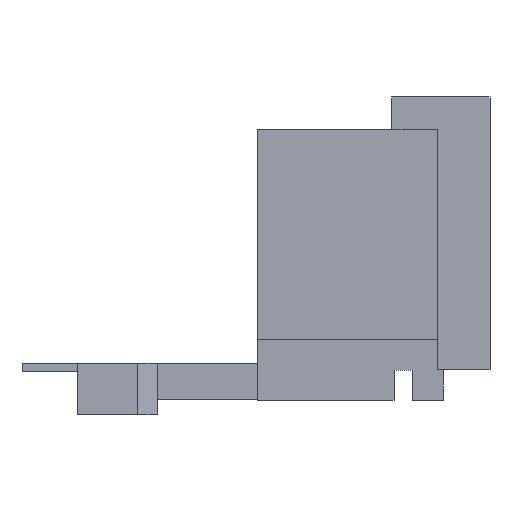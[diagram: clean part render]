
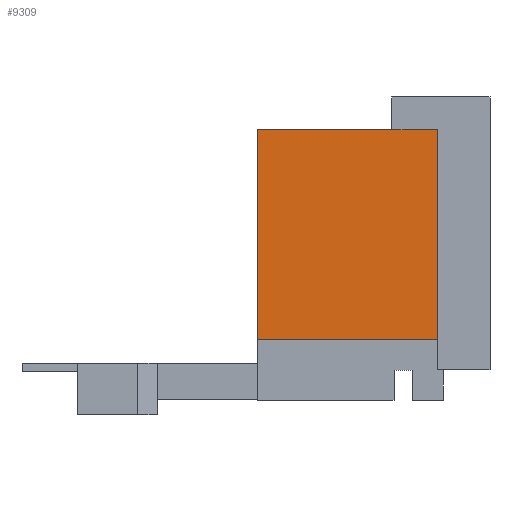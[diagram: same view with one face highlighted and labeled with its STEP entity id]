
A CAD part, left-side view. The second image highlights one B-rep face of the part: STEP entity #9309.
In plain terms, the highlighted planar face has unit normal (-1, 0, 0).
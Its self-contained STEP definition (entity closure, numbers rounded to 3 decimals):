
#5506 = PLANE('',#5507);
#5507 = AXIS2_PLACEMENT_3D('',#5508,#5509,#5510);
#5508 = CARTESIAN_POINT('',(28.062,-0.15,26.15));
#5509 = DIRECTION('',(0.,1.,0.));
#5510 = DIRECTION('',(1.,0.,0.));
#9136 = EDGE_CURVE('',#9137,#9139,#9141,.T.);
#9137 = VERTEX_POINT('',#9138);
#9138 = CARTESIAN_POINT('',(28.062,-0.15,26.15));
#9139 = VERTEX_POINT('',#9140);
#9140 = CARTESIAN_POINT('',(28.062,-0.15,6.96));
#9141 = SURFACE_CURVE('',#9142,(#9146,#9153),.PCURVE_S1.);
#9142 = LINE('',#9143,#9144);
#9143 = CARTESIAN_POINT('',(28.062,-0.15,26.15));
#9144 = VECTOR('',#9145,1.);
#9145 = DIRECTION('',(0.,0.,-1.));
#9146 = PCURVE('',#5506,#9147);
#9147 = DEFINITIONAL_REPRESENTATION('',(#9148),#9152);
#9148 = LINE('',#9149,#9150);
#9149 = CARTESIAN_POINT('',(0.,0.));
#9150 = VECTOR('',#9151,1.);
#9151 = DIRECTION('',(0.,1.));
#9152 = ( GEOMETRIC_REPRESENTATION_CONTEXT(2) 
PARAMETRIC_REPRESENTATION_CONTEXT() REPRESENTATION_CONTEXT('2D SPACE',''
  ) );
#9153 = PCURVE('',#9154,#9159);
#9154 = PLANE('',#9155);
#9155 = AXIS2_PLACEMENT_3D('',#9156,#9157,#9158);
#9156 = CARTESIAN_POINT('',(28.062,-17.15,26.15));
#9157 = DIRECTION('',(1.,0.,0.));
#9158 = DIRECTION('',(0.,1.,0.));
#9159 = DEFINITIONAL_REPRESENTATION('',(#9160),#9164);
#9160 = LINE('',#9161,#9162);
#9161 = CARTESIAN_POINT('',(17.,0.));
#9162 = VECTOR('',#9163,1.);
#9163 = DIRECTION('',(0.,-1.));
#9164 = ( GEOMETRIC_REPRESENTATION_CONTEXT(2) 
PARAMETRIC_REPRESENTATION_CONTEXT() REPRESENTATION_CONTEXT('2D SPACE',''
  ) );
#9182 = PLANE('',#9183);
#9183 = AXIS2_PLACEMENT_3D('',#9184,#9185,#9186);
#9184 = CARTESIAN_POINT('',(28.062,-17.15,26.15));
#9185 = DIRECTION('',(0.,0.,-1.));
#9186 = DIRECTION('',(0.,1.,0.));
#9292 = PLANE('',#9293);
#9293 = AXIS2_PLACEMENT_3D('',#9294,#9295,#9296);
#9294 = CARTESIAN_POINT('',(27.962,-17.25,6.96));
#9295 = DIRECTION('',(0.,0.,-1.));
#9296 = DIRECTION('',(0.,1.,0.));
#9309 = ADVANCED_FACE('',(#9310),#9154,.F.);
#9310 = FACE_BOUND('',#9311,.F.);
#9311 = EDGE_LOOP('',(#9312,#9342,#9363,#9364,#9387));
#9312 = ORIENTED_EDGE('',*,*,#9313,.F.);
#9313 = EDGE_CURVE('',#9314,#9316,#9318,.T.);
#9314 = VERTEX_POINT('',#9315);
#9315 = CARTESIAN_POINT('',(28.062,-16.65,6.96));
#9316 = VERTEX_POINT('',#9317);
#9317 = CARTESIAN_POINT('',(28.062,-16.65,26.15));
#9318 = SURFACE_CURVE('',#9319,(#9323,#9330),.PCURVE_S1.);
#9319 = LINE('',#9320,#9321);
#9320 = CARTESIAN_POINT('',(28.062,-16.65,27.65));
#9321 = VECTOR('',#9322,1.);
#9322 = DIRECTION('',(0.,0.,1.));
#9323 = PCURVE('',#9154,#9324);
#9324 = DEFINITIONAL_REPRESENTATION('',(#9325),#9329);
#9325 = LINE('',#9326,#9327);
#9326 = CARTESIAN_POINT('',(0.5,1.5));
#9327 = VECTOR('',#9328,1.);
#9328 = DIRECTION('',(0.,1.));
#9329 = ( GEOMETRIC_REPRESENTATION_CONTEXT(2) 
PARAMETRIC_REPRESENTATION_CONTEXT() REPRESENTATION_CONTEXT('2D SPACE',''
  ) );
#9330 = PCURVE('',#9331,#9336);
#9331 = PLANE('',#9332);
#9332 = AXIS2_PLACEMENT_3D('',#9333,#9334,#9335);
#9333 = CARTESIAN_POINT('',(16.062,-16.65,29.15));
#9334 = DIRECTION('',(0.,1.,0.));
#9335 = DIRECTION('',(1.,0.,0.));
#9336 = DEFINITIONAL_REPRESENTATION('',(#9337),#9341);
#9337 = LINE('',#9338,#9339);
#9338 = CARTESIAN_POINT('',(12.,1.5));
#9339 = VECTOR('',#9340,1.);
#9340 = DIRECTION('',(0.,-1.));
#9341 = ( GEOMETRIC_REPRESENTATION_CONTEXT(2) 
PARAMETRIC_REPRESENTATION_CONTEXT() REPRESENTATION_CONTEXT('2D SPACE',''
  ) );
#9342 = ORIENTED_EDGE('',*,*,#9343,.T.);
#9343 = EDGE_CURVE('',#9314,#9139,#9344,.T.);
#9344 = SURFACE_CURVE('',#9345,(#9349,#9356),.PCURVE_S1.);
#9345 = LINE('',#9346,#9347);
#9346 = CARTESIAN_POINT('',(28.062,-17.2,6.96));
#9347 = VECTOR('',#9348,1.);
#9348 = DIRECTION('',(0.,1.,0.));
#9349 = PCURVE('',#9154,#9350);
#9350 = DEFINITIONAL_REPRESENTATION('',(#9351),#9355);
#9351 = LINE('',#9352,#9353);
#9352 = CARTESIAN_POINT('',(-0.05,-19.19));
#9353 = VECTOR('',#9354,1.);
#9354 = DIRECTION('',(1.,0.));
#9355 = ( GEOMETRIC_REPRESENTATION_CONTEXT(2) 
PARAMETRIC_REPRESENTATION_CONTEXT() REPRESENTATION_CONTEXT('2D SPACE',''
  ) );
#9356 = PCURVE('',#9292,#9357);
#9357 = DEFINITIONAL_REPRESENTATION('',(#9358),#9362);
#9358 = LINE('',#9359,#9360);
#9359 = CARTESIAN_POINT('',(0.05,0.1));
#9360 = VECTOR('',#9361,1.);
#9361 = DIRECTION('',(1.,0.));
#9362 = ( GEOMETRIC_REPRESENTATION_CONTEXT(2) 
PARAMETRIC_REPRESENTATION_CONTEXT() REPRESENTATION_CONTEXT('2D SPACE',''
  ) );
#9363 = ORIENTED_EDGE('',*,*,#9136,.F.);
#9364 = ORIENTED_EDGE('',*,*,#9365,.F.);
#9365 = EDGE_CURVE('',#9366,#9137,#9368,.T.);
#9366 = VERTEX_POINT('',#9367);
#9367 = CARTESIAN_POINT('',(28.062,-12.45,26.15));
#9368 = SURFACE_CURVE('',#9369,(#9373,#9380),.PCURVE_S1.);
#9369 = LINE('',#9370,#9371);
#9370 = CARTESIAN_POINT('',(28.062,-17.15,26.15));
#9371 = VECTOR('',#9372,1.);
#9372 = DIRECTION('',(0.,1.,0.));
#9373 = PCURVE('',#9154,#9374);
#9374 = DEFINITIONAL_REPRESENTATION('',(#9375),#9379);
#9375 = LINE('',#9376,#9377);
#9376 = CARTESIAN_POINT('',(0.,0.));
#9377 = VECTOR('',#9378,1.);
#9378 = DIRECTION('',(1.,0.));
#9379 = ( GEOMETRIC_REPRESENTATION_CONTEXT(2) 
PARAMETRIC_REPRESENTATION_CONTEXT() REPRESENTATION_CONTEXT('2D SPACE',''
  ) );
#9380 = PCURVE('',#9182,#9381);
#9381 = DEFINITIONAL_REPRESENTATION('',(#9382),#9386);
#9382 = LINE('',#9383,#9384);
#9383 = CARTESIAN_POINT('',(0.,0.));
#9384 = VECTOR('',#9385,1.);
#9385 = DIRECTION('',(1.,0.));
#9386 = ( GEOMETRIC_REPRESENTATION_CONTEXT(2) 
PARAMETRIC_REPRESENTATION_CONTEXT() REPRESENTATION_CONTEXT('2D SPACE',''
  ) );
#9387 = ORIENTED_EDGE('',*,*,#9388,.F.);
#9388 = EDGE_CURVE('',#9316,#9366,#9389,.T.);
#9389 = SURFACE_CURVE('',#9390,(#9394,#9401),.PCURVE_S1.);
#9390 = LINE('',#9391,#9392);
#9391 = CARTESIAN_POINT('',(28.062,-17.15,26.15));
#9392 = VECTOR('',#9393,1.);
#9393 = DIRECTION('',(0.,1.,0.));
#9394 = PCURVE('',#9154,#9395);
#9395 = DEFINITIONAL_REPRESENTATION('',(#9396),#9400);
#9396 = LINE('',#9397,#9398);
#9397 = CARTESIAN_POINT('',(0.,0.));
#9398 = VECTOR('',#9399,1.);
#9399 = DIRECTION('',(1.,0.));
#9400 = ( GEOMETRIC_REPRESENTATION_CONTEXT(2) 
PARAMETRIC_REPRESENTATION_CONTEXT() REPRESENTATION_CONTEXT('2D SPACE',''
  ) );
#9401 = PCURVE('',#9402,#9407);
#9402 = PLANE('',#9403);
#9403 = AXIS2_PLACEMENT_3D('',#9404,#9405,#9406);
#9404 = CARTESIAN_POINT('',(16.062,-17.05,26.15));
#9405 = DIRECTION('',(0.,0.,-1.));
#9406 = DIRECTION('',(0.,1.,0.));
#9407 = DEFINITIONAL_REPRESENTATION('',(#9408),#9412);
#9408 = LINE('',#9409,#9410);
#9409 = CARTESIAN_POINT('',(-0.1,12.));
#9410 = VECTOR('',#9411,1.);
#9411 = DIRECTION('',(1.,0.));
#9412 = ( GEOMETRIC_REPRESENTATION_CONTEXT(2) 
PARAMETRIC_REPRESENTATION_CONTEXT() REPRESENTATION_CONTEXT('2D SPACE',''
  ) );
